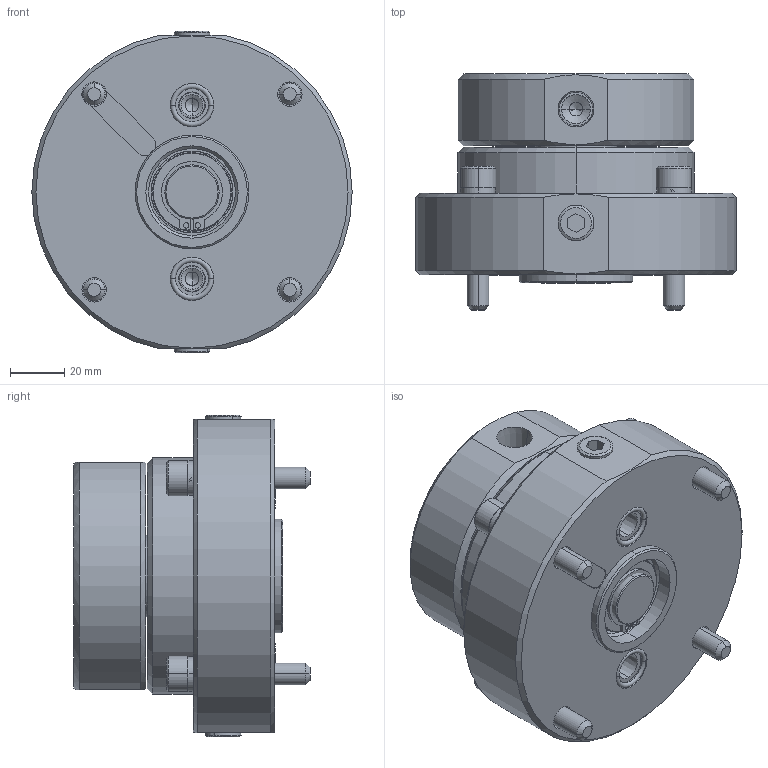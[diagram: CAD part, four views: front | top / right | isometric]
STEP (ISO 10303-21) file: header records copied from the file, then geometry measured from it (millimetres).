
FILE_DESCRIPTION((' '),'2;1');
FILE_NAME( 'TMC02-S-A.x_t.stp', '2024-09-03T08:16:49', (' '), ('--- Datakit www.datakit.com---'), ' Datakit CrossCadWare V2024.1 Dec 21 2023', 'Mastercam 2025', ' ');
FILE_SCHEMA(('AUTOMOTIVE_DESIGN { 1 0 10303 214 1 1 1 1 }'));
Length unit declared in the file: millimetre
Products named in the file (1): TMC02-S-A
Bounding box: 118 x 87 x 118.6 mm (x, y, z)
Volume: 573789.1 mm3; surface area: 84127.9 mm2
Topology: 16 solids, 16 shells, 388 faces, 838 edges, 482 vertices
Faces by surface type: plane 129, cone 128, cylinder 119, torus 12
Entity records: 10918 total; most frequent: CARTESIAN_POINT 2001, DIRECTION 1980, ORIENTED_EDGE 1628, AXIS2_PLACEMENT_3D 821, EDGE_CURVE 814, VERTEX_POINT 482, EDGE_LOOP 436, CIRCLE 400
